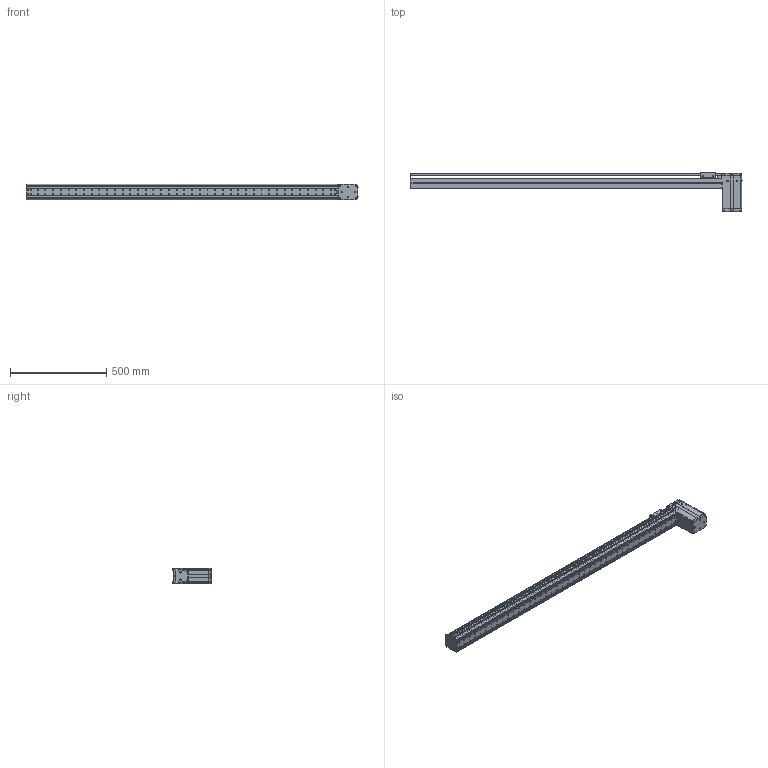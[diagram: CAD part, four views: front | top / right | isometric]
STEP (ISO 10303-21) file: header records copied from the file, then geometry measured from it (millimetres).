
FILE_DESCRIPTION((''),'2;1');
FILE_NAME('BE10_-BU-S_N-E5_IGS_PRT','2017-06-18T',(' '),(''),'PRO/ENGINEER BY PARAMETRIC TECHNOLOGY CORPORATION, 2015030','PRO/ENGINEER BY PARAMETRIC TECHNOLOGY CORPORATION, 2015030','');
FILE_SCHEMA(('CONFIG_CONTROL_DESIGN'));
Products named in the file (1): BE10_-BU-S_N-E5_IGS_PRT
Bounding box: 1720.8 x 202.72 x 78 mm (x, y, z)
Volume: 2351504 mm3; surface area: 1600977.2 mm2
Topology: 2 solids, 167 shells, 2238 faces, 6139 edges, 4071 vertices
Faces by surface type: plane 1068, cylinder 1011, cone 103, sphere 28, torus 25, bspline 3
Entity records: 73311 total; most frequent: CARTESIAN_POINT 15070, DIRECTION 12377, ORIENTED_EDGE 11590, EDGE_CURVE 6085, AXIS2_PLACEMENT_3D 4485, VERTEX_POINT 4071, VECTOR 3407, LINE 3407
